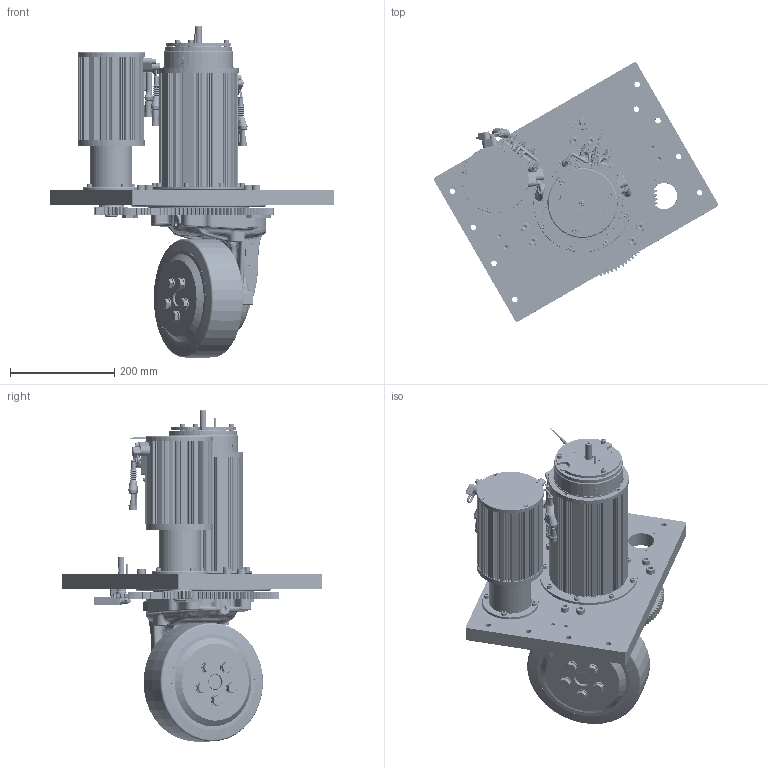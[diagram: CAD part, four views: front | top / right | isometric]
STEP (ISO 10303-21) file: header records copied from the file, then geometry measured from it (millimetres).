
FILE_DESCRIPTION(/* description */ (''),/* implementation_level */ '2;1');
FILE_NAME(/* name */ 'WR230FMS-AC.stp',/* time_stamp */ '2026-05-28T15:20:09+02:00',/* author */ ('cad3'),/* organization */ (''),/* preprocessor_version */ 'ST-DEVELOPER v20',/* originating_system */ 'Autodesk Inventor 2025',/* authorisation */ '');
FILE_SCHEMA (('AUTOMOTIVE_DESIGN { 1 0 10303 214 3 1 1 }'));
Products named in the file (1): WR230FMS-AC
Bounding box: 547.71 x 500.13 x 638.13 mm (x, y, z)
Volume: 10887708.8 mm3; surface area: 2125051 mm2
Topology: 61 solids, 174 shells, 18812 faces, 51980 edges, 33402 vertices
Faces by surface type: plane 13554, cylinder 2422, bspline 1282, cone 934, torus 511, sphere 109
Full cylindrical faces by diameter (mm): 0.5 x2, 1.5 x4, 1.7 x2, 2 x4, 2.459 x4, 2.5 x8, 3 x3, 3.242 x7, 4 x20, 4.134 x41, 4.5 x4, 4.917 x18, 5 x39, 5.2 x2, 5.3 x24, 5.4 x1, 5.5 x29, 6 x64, 6.2 x15, 6.3 x3, 6.4 x14, 6.5 x22, 6.647 x3, 6.8 x3, 7 x10, 7.1 x2, 7.8 x12, 8 x34, 8.2 x6, 8.4 x5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
Entity records: 706727 total; most frequent: CARTESIAN_POINT 205155, ORIENTED_EDGE 103386, DIRECTION 98164, EDGE_CURVE 51693, VERTEX_POINT 33467, AXIS2_PLACEMENT_3D 33180, LINE 31804, VECTOR 31804
